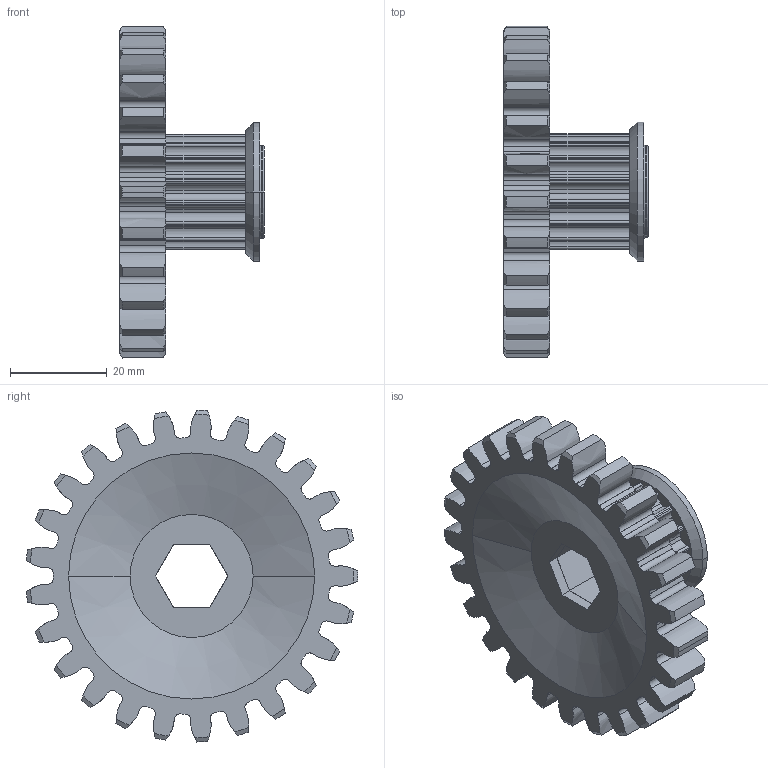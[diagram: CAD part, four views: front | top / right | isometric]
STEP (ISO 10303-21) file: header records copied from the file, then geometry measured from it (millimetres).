
FILE_DESCRIPTION (( 'STEP AP214' ), '1' );
FILE_NAME ('KB-26010_ Launcher GearPulley_1.step', '2025-12-23T15:52:34', ( '' ), ( '' ), 'SwSTEP 2.0', 'SolidWorks 2026', '' );
FILE_SCHEMA (( 'AUTOMOTIVE_DESIGN' ));
Length unit declared in the file: inch
Products named in the file (1): KB-26010_ Launcher GearPulley_1
Bounding box: 29.87 x 68.43 x 68.55 mm (x, y, z)
Volume: 28755.8 mm3; surface area: 13726 mm2
Topology: 1 solids, 1 shells, 806 faces, 2295 edges, 1528 vertices
Faces by surface type: cylinder 312, plane 269, bspline 167, cone 54, torus 4
Entity records: 29662 total; most frequent: CARTESIAN_POINT 9457, ORIENTED_EDGE 4590, DIRECTION 3746, EDGE_CURVE 2295, VERTEX_POINT 1528, AXIS2_PLACEMENT_3D 1328, VECTOR 1090, LINE 1090
